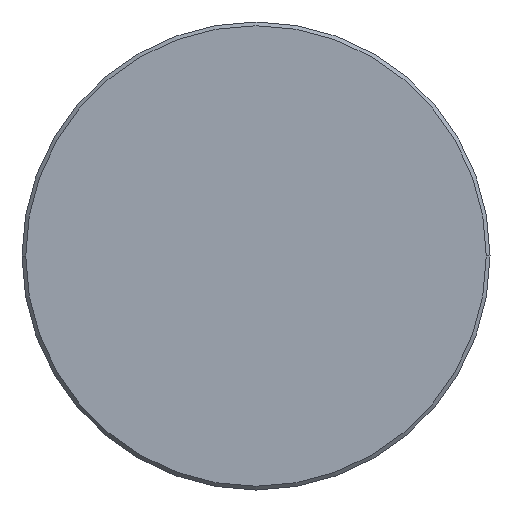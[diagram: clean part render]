
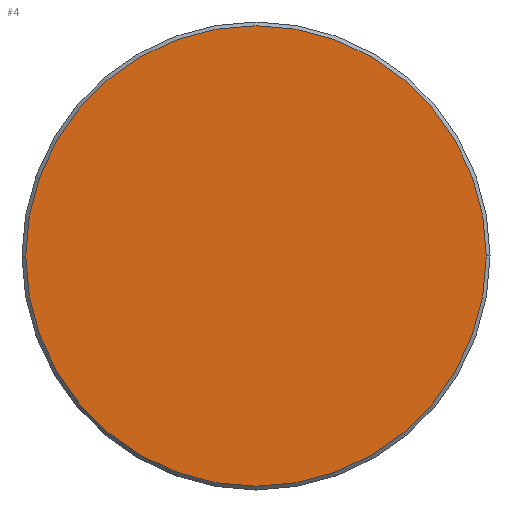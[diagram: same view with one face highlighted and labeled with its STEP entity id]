
A CAD part, left-side view. The second image highlights one B-rep face of the part: STEP entity #4.
In plain terms, the highlighted planar face has unit normal (-1, 0, 0).
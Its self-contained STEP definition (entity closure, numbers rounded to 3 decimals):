
#4 = ADVANCED_FACE ( 'NONE', ( #1281 ), #1266, .T. ) ;
#47 = EDGE_CURVE ( 'NONE', #1154, #950, #622, .T. ) ;
#90 = EDGE_CURVE ( 'NONE', #950, #1154, #538, .T. ) ;
#339 = CARTESIAN_POINT ( 'NONE',  ( -72., -12.3, 0. ) ) ;
#368 = CARTESIAN_POINT ( 'NONE',  ( -72., 12.3, 0. ) ) ;
#535 = AXIS2_PLACEMENT_3D ( 'NONE', #1384, #1383, #1319 ) ;
#538 = CIRCLE ( 'NONE', #535, 12.3 ) ;
#616 = AXIS2_PLACEMENT_3D ( 'NONE', #1030, #1027, #1026 ) ;
#622 = CIRCLE ( 'NONE', #616, 12.3 ) ;
#707 = AXIS2_PLACEMENT_3D ( 'NONE', #1280, #1264, #1263 ) ;
#950 = VERTEX_POINT ( 'NONE', #368 ) ;
#1026 = DIRECTION ( 'NONE',  ( 0., -1., 0. ) ) ;
#1027 = DIRECTION ( 'NONE',  ( -1., 0., 0. ) ) ;
#1030 = CARTESIAN_POINT ( 'NONE',  ( -72., 0., 0. ) ) ;
#1154 = VERTEX_POINT ( 'NONE', #339 ) ;
#1263 = DIRECTION ( 'NONE',  ( 0., -1., 0. ) ) ;
#1264 = DIRECTION ( 'NONE',  ( -1., 0., 0. ) ) ;
#1266 = PLANE ( 'NONE',  #707 ) ;
#1280 = CARTESIAN_POINT ( 'NONE',  ( -72., 0., 0. ) ) ;
#1281 = FACE_OUTER_BOUND ( 'NONE', #1369, .T. ) ;
#1319 = DIRECTION ( 'NONE',  ( 0., -1., 0. ) ) ;
#1369 = EDGE_LOOP ( 'NONE', ( #1448, #1449 ) ) ;
#1383 = DIRECTION ( 'NONE',  ( -1., 0., 0. ) ) ;
#1384 = CARTESIAN_POINT ( 'NONE',  ( -72., 0., 0. ) ) ;
#1448 = ORIENTED_EDGE ( 'NONE', *, *, #90, .T. ) ;
#1449 = ORIENTED_EDGE ( 'NONE', *, *, #47, .T. ) ;
